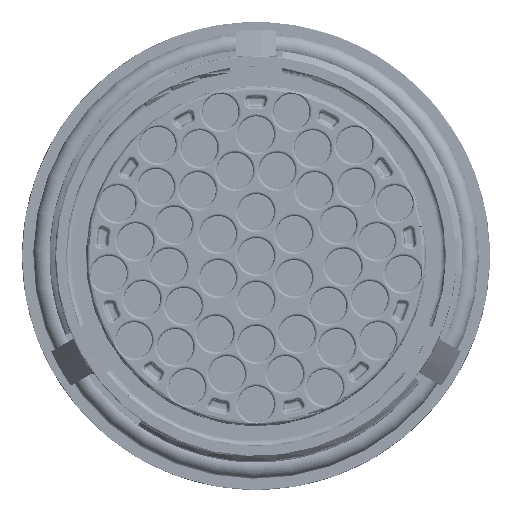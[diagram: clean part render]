
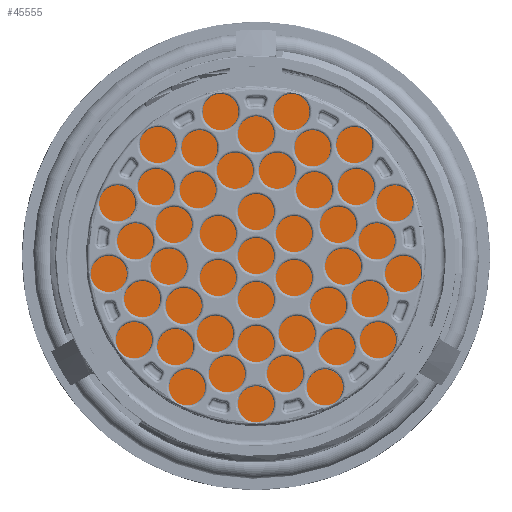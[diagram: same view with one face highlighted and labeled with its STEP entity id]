
A CAD part, front view. The second image highlights one B-rep face of the part: STEP entity #45555.
In plain terms, the highlighted planar face has unit normal (0, -1, 0).
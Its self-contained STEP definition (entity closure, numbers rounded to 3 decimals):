
#1248=PLANE('',#51931);
#2841=FACE_BOUND('',#13189,.T.);
#2842=FACE_BOUND('',#13190,.T.);
#2843=FACE_BOUND('',#13191,.T.);
#9748=FACE_OUTER_BOUND('',#13188,.T.);
#13188=EDGE_LOOP('',(#41941));
#13189=EDGE_LOOP('',(#41942));
#13190=EDGE_LOOP('',(#41943));
#13191=EDGE_LOOP('',(#41944));
#17910=CIRCLE('',#51919,1.9);
#17912=CIRCLE('',#51922,1.9);
#17914=CIRCLE('',#51925,1.9);
#17917=CIRCLE('',#51929,29.5);
#22186=VERTEX_POINT('',#90772);
#22188=VERTEX_POINT('',#90777);
#22190=VERTEX_POINT('',#90782);
#22193=VERTEX_POINT('',#90789);
#28803=EDGE_CURVE('',#22186,#22186,#17910,.T.);
#28805=EDGE_CURVE('',#22188,#22188,#17912,.T.);
#28807=EDGE_CURVE('',#22190,#22190,#17914,.T.);
#28810=EDGE_CURVE('',#22193,#22193,#17917,.T.);
#41941=ORIENTED_EDGE('',*,*,#28810,.F.);
#41942=ORIENTED_EDGE('',*,*,#28803,.T.);
#41943=ORIENTED_EDGE('',*,*,#28805,.T.);
#41944=ORIENTED_EDGE('',*,*,#28807,.T.);
#45555=ADVANCED_FACE('',(#9748,#2841,#2842,#2843),#1248,.T.);
#51919=AXIS2_PLACEMENT_3D('',#90773,#66384,#66385);
#51922=AXIS2_PLACEMENT_3D('',#90778,#66390,#66391);
#51925=AXIS2_PLACEMENT_3D('',#90783,#66396,#66397);
#51929=AXIS2_PLACEMENT_3D('',#90790,#66404,#66405);
#51931=AXIS2_PLACEMENT_3D('',#90792,#66408,#66409);
#66384=DIRECTION('center_axis',(0.,1.,0.));
#66385=DIRECTION('ref_axis',(-1.,0.,0.));
#66390=DIRECTION('center_axis',(0.,1.,0.));
#66391=DIRECTION('ref_axis',(-1.,0.,0.));
#66396=DIRECTION('center_axis',(0.,1.,0.));
#66397=DIRECTION('ref_axis',(-1.,0.,0.));
#66404=DIRECTION('center_axis',(0.,1.,0.));
#66405=DIRECTION('ref_axis',(-1.,0.,0.));
#66408=DIRECTION('center_axis',(0.,-1.,0.));
#66409=DIRECTION('ref_axis',(0.,0.,-1.));
#90772=CARTESIAN_POINT('',(24.91,-0.875,-8.414));
#90773=CARTESIAN_POINT('Origin',(23.01,-0.875,-8.414));
#90777=CARTESIAN_POINT('',(-3.736,-0.875,-24.1));
#90778=CARTESIAN_POINT('Origin',(-5.636,-0.875,-24.1));
#90782=CARTESIAN_POINT('',(-9.744,-0.875,21.556));
#90783=CARTESIAN_POINT('Origin',(-11.644,-0.875,21.556));
#90789=CARTESIAN_POINT('',(-29.5,-0.875,0.));
#90790=CARTESIAN_POINT('Origin',(0.,-0.875,0.));
#90792=CARTESIAN_POINT('Origin',(-14.75,-0.875,0.));
